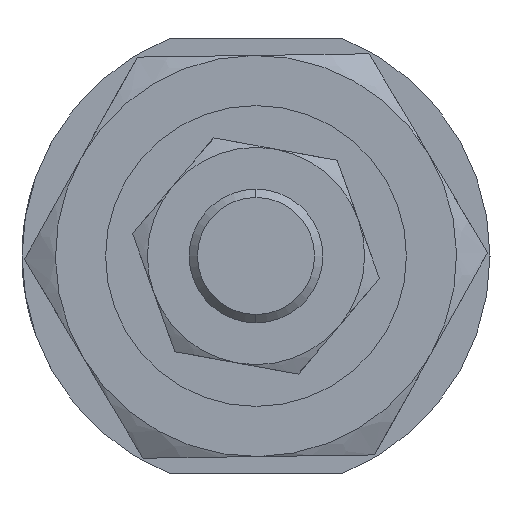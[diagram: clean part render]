
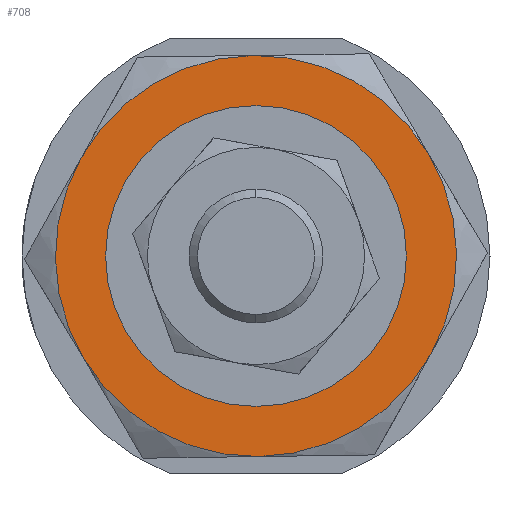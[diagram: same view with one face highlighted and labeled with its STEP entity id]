
A CAD part, left-side view. The second image highlights one B-rep face of the part: STEP entity #708.
In plain terms, the highlighted planar face has unit normal (-1, 0, 0) as drawn and (0, 0, -1) by its records, which use the part's own axes.
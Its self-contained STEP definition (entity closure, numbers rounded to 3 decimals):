
#3 = ORIENTED_EDGE ( 'NONE', *, *, #743, .F. ) ;
#127 = EDGE_CURVE ( 'NONE', #2372, #959, #2980, .T. ) ;
#138 = ORIENTED_EDGE ( 'NONE', *, *, #1856, .T. ) ;
#161 = CARTESIAN_POINT ( 'NONE',  ( -8.25, 0., -4. ) ) ;
#354 = CIRCLE ( 'NONE', #1323, 12. ) ;
#434 = CARTESIAN_POINT ( 'NONE',  ( 6., 10.392, -4. ) ) ;
#438 = EDGE_CURVE ( 'NONE', #2740, #444, #1858, .T. ) ;
#444 = VERTEX_POINT ( 'NONE', #161 ) ;
#490 = AXIS2_PLACEMENT_3D ( 'NONE', #580, #1506, #1055 ) ;
#517 = ORIENTED_EDGE ( 'NONE', *, *, #1972, .F. ) ;
#524 = CARTESIAN_POINT ( 'NONE',  ( -6., 10.392, -4. ) ) ;
#551 = DIRECTION ( 'NONE',  ( 1., 0., 0. ) ) ;
#554 = AXIS2_PLACEMENT_3D ( 'NONE', #1375, #1616, #3043 ) ;
#580 = CARTESIAN_POINT ( 'NONE',  ( 0., 0., -4. ) ) ;
#594 = VERTEX_POINT ( 'NONE', #2127 ) ;
#655 = CARTESIAN_POINT ( 'NONE',  ( -12., 0., -4. ) ) ;
#708 = ADVANCED_FACE ( 'NONE', ( #2050, #2387 ), #1263, .F. ) ;
#743 = EDGE_CURVE ( 'NONE', #2838, #1958, #1820, .T. ) ;
#776 = EDGE_CURVE ( 'NONE', #594, #2372, #841, .T. ) ;
#787 = CARTESIAN_POINT ( 'NONE',  ( 0., 0., -4. ) ) ;
#791 = CARTESIAN_POINT ( 'NONE',  ( -6., -10.392, -4. ) ) ;
#823 = ORIENTED_EDGE ( 'NONE', *, *, #776, .F. ) ;
#841 = CIRCLE ( 'NONE', #490, 12. ) ;
#959 = VERTEX_POINT ( 'NONE', #524 ) ;
#1055 = DIRECTION ( 'NONE',  ( 1., 0., 0. ) ) ;
#1263 = PLANE ( 'NONE',  #2605 ) ;
#1292 = EDGE_CURVE ( 'NONE', #1958, #2950, #1387, .T. ) ;
#1323 = AXIS2_PLACEMENT_3D ( 'NONE', #2434, #2676, #2895 ) ;
#1375 = CARTESIAN_POINT ( 'NONE',  ( 0., 0., -4. ) ) ;
#1387 = CIRCLE ( 'NONE', #1494, 12. ) ;
#1479 = CARTESIAN_POINT ( 'NONE',  ( 0., 0., -4. ) ) ;
#1480 = EDGE_LOOP ( 'NONE', ( #2677, #138 ) ) ;
#1481 = DIRECTION ( 'NONE',  ( 0., 0., 1. ) ) ;
#1494 = AXIS2_PLACEMENT_3D ( 'NONE', #2296, #1776, #2499 ) ;
#1506 = DIRECTION ( 'NONE',  ( 0., 0., 1. ) ) ;
#1508 = ORIENTED_EDGE ( 'NONE', *, *, #2625, .F. ) ;
#1616 = DIRECTION ( 'NONE',  ( 0., 0., 1. ) ) ;
#1628 = DIRECTION ( 'NONE',  ( 1., 0., 0. ) ) ;
#1683 = DIRECTION ( 'NONE',  ( 1., 0., 0. ) ) ;
#1684 = AXIS2_PLACEMENT_3D ( 'NONE', #1479, #2175, #2911 ) ;
#1699 = AXIS2_PLACEMENT_3D ( 'NONE', #2585, #1855, #1628 ) ;
#1776 = DIRECTION ( 'NONE',  ( 0., 0., 1. ) ) ;
#1820 = CIRCLE ( 'NONE', #1684, 12. ) ;
#1826 = ORIENTED_EDGE ( 'NONE', *, *, #1292, .F. ) ;
#1855 = DIRECTION ( 'NONE',  ( 0., 0., 1. ) ) ;
#1856 = EDGE_CURVE ( 'NONE', #444, #2740, #2501, .T. ) ;
#1858 = CIRCLE ( 'NONE', #554, 8.25 ) ;
#1958 = VERTEX_POINT ( 'NONE', #791 ) ;
#1972 = EDGE_CURVE ( 'NONE', #2950, #594, #354, .T. ) ;
#2050 = FACE_BOUND ( 'NONE', #1480, .T. ) ;
#2127 = CARTESIAN_POINT ( 'NONE',  ( 12., 0., -4. ) ) ;
#2171 = CARTESIAN_POINT ( 'NONE',  ( 0., 0., -4. ) ) ;
#2175 = DIRECTION ( 'NONE',  ( 0., 0., 1. ) ) ;
#2178 = DIRECTION ( 'NONE',  ( 1., 0., 0. ) ) ;
#2196 = CARTESIAN_POINT ( 'NONE',  ( 0., 0., -4. ) ) ;
#2296 = CARTESIAN_POINT ( 'NONE',  ( 0., 0., -4. ) ) ;
#2361 = ORIENTED_EDGE ( 'NONE', *, *, #127, .F. ) ;
#2372 = VERTEX_POINT ( 'NONE', #434 ) ;
#2387 = FACE_OUTER_BOUND ( 'NONE', #2584, .T. ) ;
#2434 = CARTESIAN_POINT ( 'NONE',  ( 0., 0., -4. ) ) ;
#2435 = AXIS2_PLACEMENT_3D ( 'NONE', #2196, #1481, #2178 ) ;
#2439 = CARTESIAN_POINT ( 'NONE',  ( 8.25, 0., -4. ) ) ;
#2460 = CIRCLE ( 'NONE', #2435, 12. ) ;
#2499 = DIRECTION ( 'NONE',  ( 1., 0., 0. ) ) ;
#2501 = CIRCLE ( 'NONE', #2699, 8.25 ) ;
#2582 = CARTESIAN_POINT ( 'NONE',  ( 6., -10.392, -4. ) ) ;
#2584 = EDGE_LOOP ( 'NONE', ( #823, #517, #1826, #3, #1508, #2361 ) ) ;
#2585 = CARTESIAN_POINT ( 'NONE',  ( 0., 0., -4. ) ) ;
#2605 = AXIS2_PLACEMENT_3D ( 'NONE', #787, #2889, #551 ) ;
#2621 = DIRECTION ( 'NONE',  ( 0., 0., 1. ) ) ;
#2625 = EDGE_CURVE ( 'NONE', #959, #2838, #2460, .T. ) ;
#2676 = DIRECTION ( 'NONE',  ( 0., 0., 1. ) ) ;
#2677 = ORIENTED_EDGE ( 'NONE', *, *, #438, .T. ) ;
#2699 = AXIS2_PLACEMENT_3D ( 'NONE', #2171, #2621, #1683 ) ;
#2740 = VERTEX_POINT ( 'NONE', #2439 ) ;
#2838 = VERTEX_POINT ( 'NONE', #655 ) ;
#2889 = DIRECTION ( 'NONE',  ( 0., 0., 1. ) ) ;
#2895 = DIRECTION ( 'NONE',  ( 1., 0., 0. ) ) ;
#2911 = DIRECTION ( 'NONE',  ( 1., 0., 0. ) ) ;
#2950 = VERTEX_POINT ( 'NONE', #2582 ) ;
#2980 = CIRCLE ( 'NONE', #1699, 12. ) ;
#3043 = DIRECTION ( 'NONE',  ( 1., 0., 0. ) ) ;
